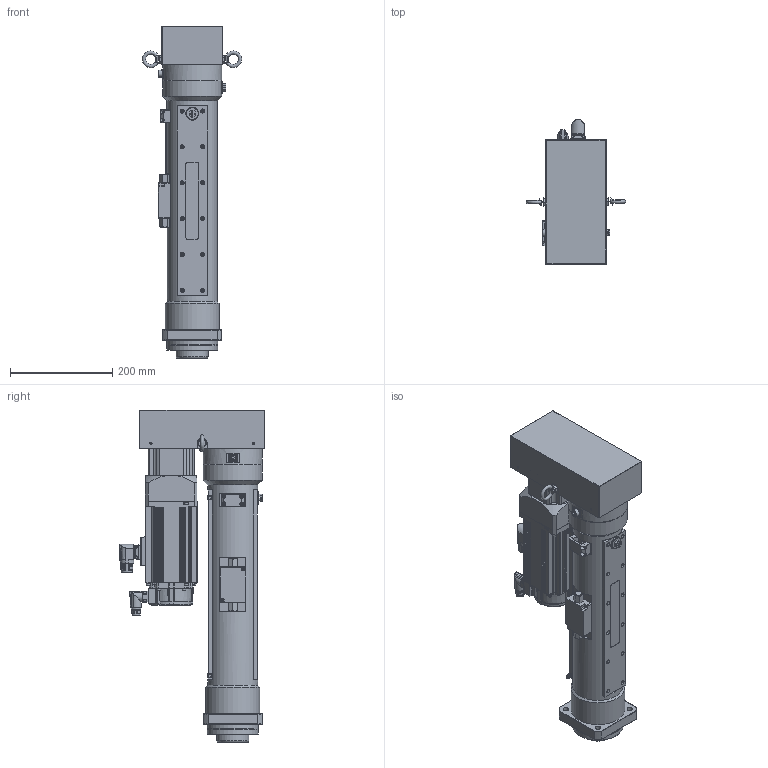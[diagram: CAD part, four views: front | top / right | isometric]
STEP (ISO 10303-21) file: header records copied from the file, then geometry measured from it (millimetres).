
FILE_DESCRIPTION(/* description */ (''),/* implementation_level */ '2;1');
FILE_NAME(/* name */ 'Z:\07.Product\01.Design\3D\1.P-All\OAICS-P\0000.Assembly\OACIS-P020,P030-300-200-A6V400.stp',/* time_stamp */ '2023-03-03T10:41:02+09:00',/* author */ ('magic'),/* organization */ (''),/* preprocessor_version */ 'ST-DEVELOPER v17',/* originating_system */ 'Autodesk Inventor 2019',/* authorisation */ '');
FILE_SCHEMA (('AUTOMOTIVE_DESIGN { 1 0 10303 214 3 1 1 }'));
Products named in the file (1): OACIS-P030-300-200-A6_v10.30
Bounding box: 193.9 x 283.59 x 648 mm (x, y, z)
Volume: 6833812.1 mm3; surface area: 957320 mm2
Topology: 3 solids, 3 shells, 2755 faces, 7334 edges, 4842 vertices
Faces by surface type: plane 1285, cylinder 911, cone 267, bspline 156, torus 76, sphere 60
Full cylindrical faces by diameter (mm): 1 x6, 1.25 x12, 2.232 x6, 2.8 x1, 3.242 x40, 4.134 x4, 4.5 x36, 4.917 x19, 5 x2, 5.5 x9, 5.8 x2, 6 x8, 6.5 x2, 6.6 x10, 6.647 x8, 6.75 x4, 6.8 x1, 7 x12, 7.2 x2, 7.24 x2, 7.8 x2, 8 x48, 8.376 x8, 8.4 x1, 8.7 x1, 9 x12, 9.188 x1, 11 x4, 13.4 x1, 14 x9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
Entity records: 101248 total; most frequent: CARTESIAN_POINT 28925, DIRECTION 14713, ORIENTED_EDGE 14432, EDGE_CURVE 7216, AXIS2_PLACEMENT_3D 5503, VERTEX_POINT 4842, LINE 3707, VECTOR 3707
